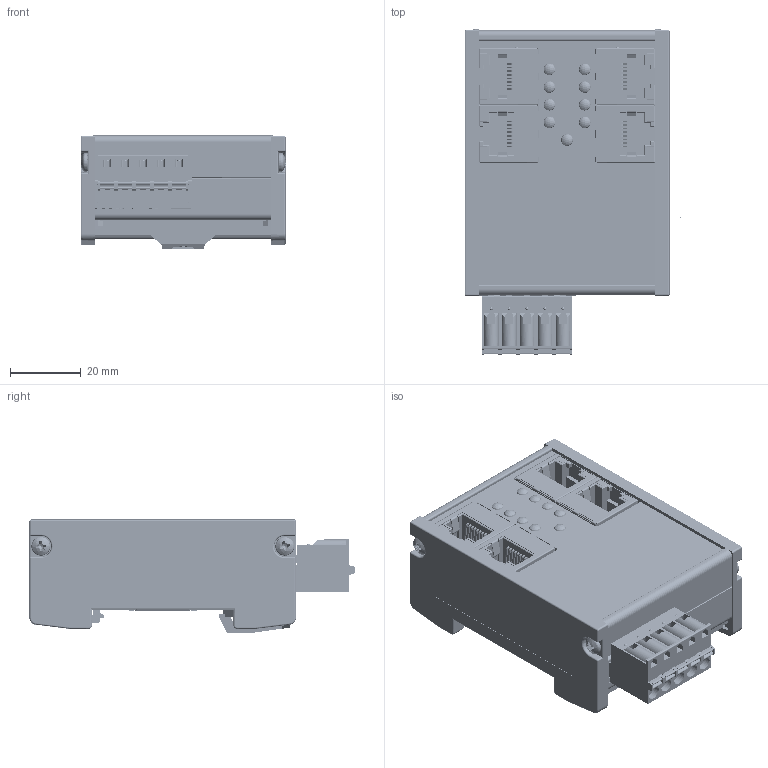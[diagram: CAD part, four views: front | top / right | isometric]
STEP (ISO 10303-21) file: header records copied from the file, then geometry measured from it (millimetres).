
FILE_DESCRIPTION (( 'STEP AP214' ), '1' );
FILE_NAME ('700-162-3MQ02-HW-2B-1A.STEP', '2020-10-29T06:40:19', ( '' ), ( '' ), 'SwSTEP 2.0', 'SolidWorks 2020', '' );
FILE_SCHEMA (( 'AUTOMOTIVE_DESIGN' ));
Length unit declared in the file: millimetre
Products named in the file (11): g-alu-002_V00-00_RAL 6034; 7039V02-Single; m-k30x08-bj V 00-10; g-alu-001 V01-03_RAL 6034 ; g-alu-083_V00-20_cutout for 5.08 grid; 700-162-3MQ02-HW-2B-1A; PLP2-xxx_PLP2-7MM; ps-alu-193_V00-20_700-153-3PN01; SchraubefürHutschienenclip; 7094V00-Single; x005-1-s-0p V 00-00
Assembly tree (22 placements, depth 2):
  700-162-3MQ02-HW-2B-1A
    7094V00-Single
    7039V02-Single
    g-alu-083_V00-20_cutout for 5.08 grid
    ps-alu-193_V00-20_700-153-3PN01
    g-alu-001 V01-03_RAL 6034   x2
    g-alu-002_V00-00_RAL 6034
    SchraubefürHutschienenclip
    m-k30x08-bj V 00-10  x4
    PLP2-xxx_PLP2-7MM  x9
    x005-1-s-0p V 00-00
Bounding box: 63.07 x 91.95 x 31.98 mm (x, y, z)
Volume: 41608.1 mm3; surface area: 84440.1 mm2
Topology: 130 solids, 807 shells, 23668 faces, 60341 edges, 37985 vertices
Faces by surface type: plane 15615, bspline 3849, cylinder 3836, cone 196, sphere 150, torus 22
Entity records: 1064956 total; most frequent: CARTESIAN_POINT 282905, ORIENTED_EDGE 115364, DIRECTION 97403, EDGE_CURVE 57728, VECTOR 43791, LINE 43791, VERTEX_POINT 36962, AXIS2_PLACEMENT_3D 26806
